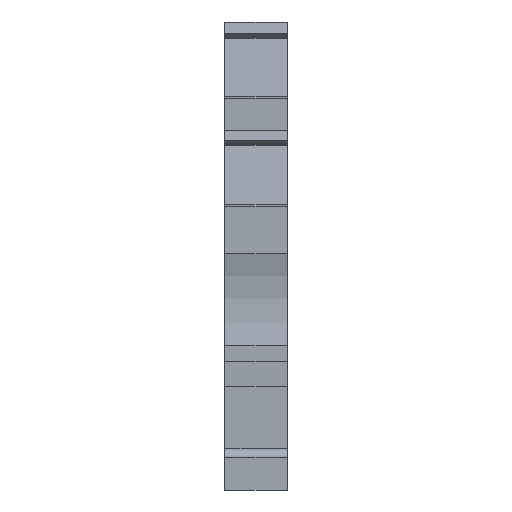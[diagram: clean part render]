
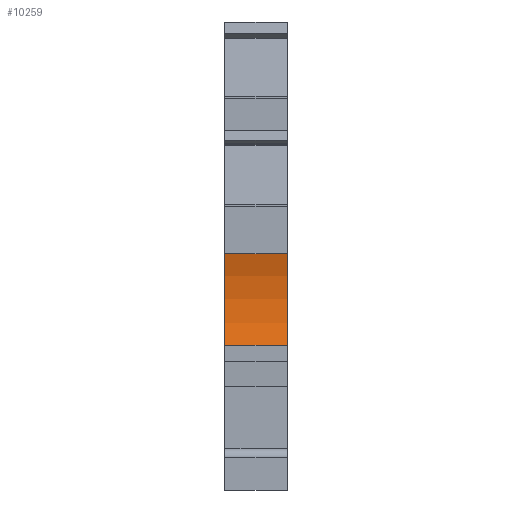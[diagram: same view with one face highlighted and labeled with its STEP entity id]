
A CAD part, front view. The second image highlights one B-rep face of the part: STEP entity #10259.
In plain terms, the highlighted cylindrical face has radius 15 mm (diameter 30 mm), a partial arc.
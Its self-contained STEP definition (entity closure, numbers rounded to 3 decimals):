
#838=CARTESIAN_POINT('',(0.,0.,14.25));
#839=VERTEX_POINT('',#838);
#845=CARTESIAN_POINT('',(0.,0.,23.25));
#846=VERTEX_POINT('',#845);
#847=CARTESIAN_POINT('',(0.,-14.309,18.75));
#848=DIRECTION('',(1.,0.,-0.));
#849=DIRECTION('',(0.,0.,1.));
#850=AXIS2_PLACEMENT_3D('',#847,#848,#849);
#851=CIRCLE('',#850,15.);
#852=EDGE_CURVE('',#839,#846,#851,.T.);
#10031=CARTESIAN_POINT('',(6.15,0.,23.25));
#10032=VERTEX_POINT('',#10031);
#10039=CARTESIAN_POINT('',(6.15,0.,14.25));
#10040=VERTEX_POINT('',#10039);
#10041=CARTESIAN_POINT('',(6.15,-14.309,18.75));
#10042=DIRECTION('',(1.,0.,-0.));
#10043=DIRECTION('',(0.,0.,1.));
#10044=AXIS2_PLACEMENT_3D('',#10041,#10042,#10043);
#10045=CIRCLE('',#10044,15.);
#10046=EDGE_CURVE('',#10040,#10032,#10045,.T.);
#10235=CARTESIAN_POINT('',(6.15,0.,23.25));
#10236=CARTESIAN_POINT('',(0.,0.,23.25));
#10237=B_SPLINE_CURVE_WITH_KNOTS('',1,(#10235,#10236),.UNSPECIFIED.,.F.,.F.,(2,2),(0.,6.15),.UNSPECIFIED.);
#10238=EDGE_CURVE('',#10032,#846,#10237,.T.);
#10244=CARTESIAN_POINT('',(6.15,-14.309,18.75));
#10245=DIRECTION('',(1.,0.,-0.));
#10246=DIRECTION('',(0.,0.,1.));
#10247=AXIS2_PLACEMENT_3D('',#10244,#10245,#10246);
#10248=CYLINDRICAL_SURFACE('',#10247,15.);
#10249=ORIENTED_EDGE('',*,*,#10238,.T.);
#10250=ORIENTED_EDGE('',*,*,#852,.F.);
#10251=CARTESIAN_POINT('',(6.15,0.,14.25));
#10252=CARTESIAN_POINT('',(0.,0.,14.25));
#10253=B_SPLINE_CURVE_WITH_KNOTS('',1,(#10251,#10252),.UNSPECIFIED.,.F.,.F.,(2,2),(0.,6.15),.UNSPECIFIED.);
#10254=EDGE_CURVE('',#10040,#839,#10253,.T.);
#10255=ORIENTED_EDGE('',*,*,#10254,.F.);
#10256=ORIENTED_EDGE('',*,*,#10046,.T.);
#10257=EDGE_LOOP('',(#10249,#10250,#10255,#10256));
#10258=FACE_BOUND('',#10257,.T.);
#10259=ADVANCED_FACE('',(#10258),#10248,.F.);
